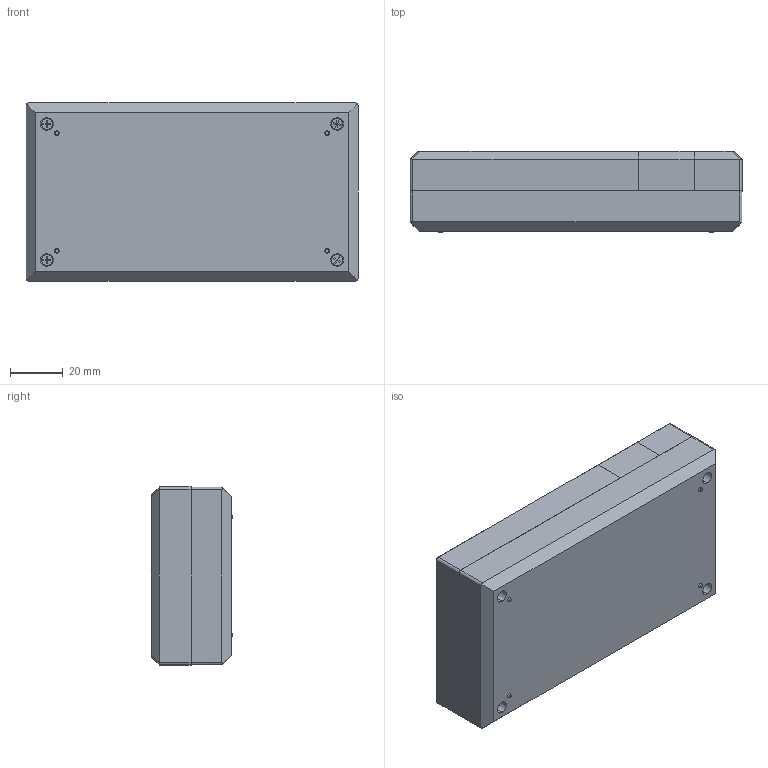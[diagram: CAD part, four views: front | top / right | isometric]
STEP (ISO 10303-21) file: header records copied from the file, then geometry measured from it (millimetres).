
FILE_DESCRIPTION (( 'STEP AP214' ), '1' );
FILE_NAME ('Conjunt PP32.STEP', '2016-10-07T08:08:37', ( 'aaa' ), ( '' ), 'SwSTEP 2.0', 'SolidWorks 2013', '' );
FILE_SCHEMA (( 'AUTOMOTIVE_DESIGN' ));
Length unit declared in the file: millimetre
Products named in the file (6): Cargol 2,1x6,5 PP33; Cargol 2,2x9,3 PP33; Tapa PP33; Cuerpo PP33; Conjunt PP32; Tapeta PP33
Assembly tree (11 placements, depth 2):
  Conjunt PP32
    Cuerpo PP33
    Tapa PP33
    Cargol 2,2x9,3 PP33  x4
    Cargol 2,1x6,5 PP33  x4
    Tapeta PP33
Bounding box: 125.5 x 30.73 x 67.3 mm (x, y, z)
Volume: 84754.4 mm3; surface area: 63205.3 mm2
Topology: 11 solids, 11 shells, 1056 faces, 2417 edges, 1414 vertices
Faces by surface type: cone 544, plane 354, cylinder 150, torus 8
Entity records: 16661 total; most frequent: CARTESIAN_POINT 2983, DIRECTION 2903, ORIENTED_EDGE 2738, EDGE_CURVE 1369, AXIS2_PLACEMENT_3D 1016, LINE 871, VECTOR 871, VERTEX_POINT 856
